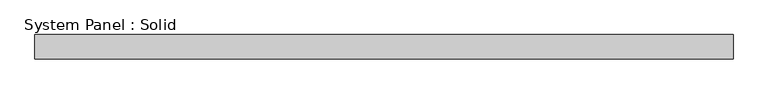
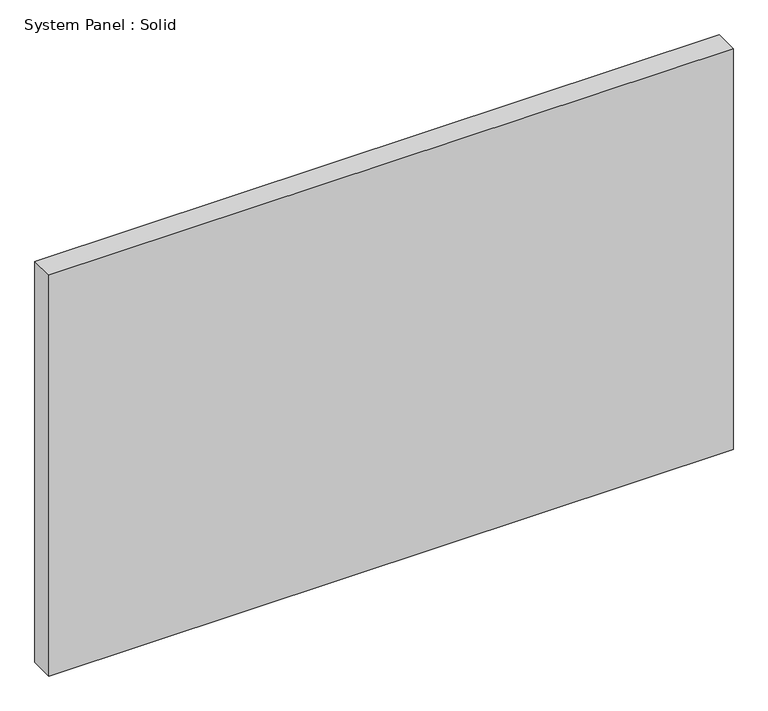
"""IFC4 building model written with IfcOpenShell, lengths in millimetres: plate geometry, System Panel : Solid."""

from ifc_helpers import new_model, si_unit, origin, origin_with_axes, place, context, project, spatial, polyline, outline, extrude, source, transform, mapped, element, save


def system_panel_solid_41530def(model_context):
    return source(origin(), model_context, "Body", "SweptSolid", [
        extrude(outline(polyline([(906.4625, -19.05), (-906.4625, -19.05), (-906.4625, 44.45), (906.4625, 44.45), (906.4625, -19.05)])), origin_with_axes(), (0.0, 0.0, 1.0), 1123.95),
    ])


if __name__ == "__main__":
    model = new_model("IFC4")
    model_context = context("Model", 3, world=origin())
    ifc_project = project(units=[si_unit("LENGTHUNIT", "METRE", prefix="MILLI")], contexts=[model_context])
    site = spatial("IfcSite", under=ifc_project)
    building = spatial("IfcBuilding", under=site)
    placement = place(None, origin())
    system_panel_solid_shape = system_panel_solid_41530def(model_context)
    element("IfcPlate", 1, ObjectType="System Panel : Solid", at=placement, inside=building, context=model_context, shape_type="MappedRepresentation", body=[
        mapped(system_panel_solid_shape, transform((0.0, 0.0, 0.0), x_axis=(1.0, 0.0, 0.0), y_axis=(0.0, 1.0, 0.0), z_axis=(0.0, 0.0, 1.0))),
    ])
    save(model, "model.ifc")
